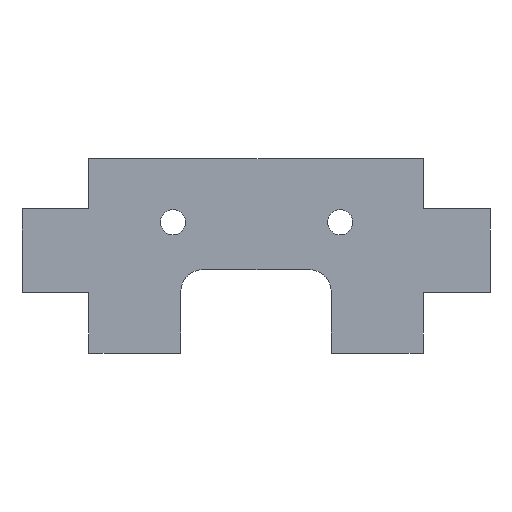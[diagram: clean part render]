
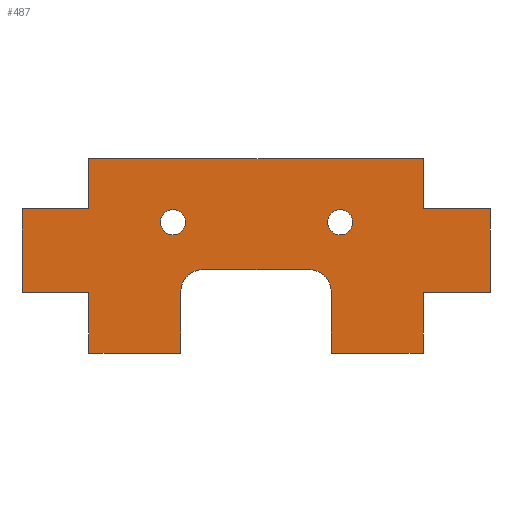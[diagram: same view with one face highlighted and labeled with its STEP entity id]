
A CAD part, front view. The second image highlights one B-rep face of the part: STEP entity #487.
In plain terms, the highlighted planar face has unit normal (0, -1, 0).
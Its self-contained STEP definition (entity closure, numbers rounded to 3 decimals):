
#19=FACE_BOUND('',#92,.T.);
#20=FACE_BOUND('',#93,.T.);
#39=PLANE('',#537);
#63=FACE_OUTER_BOUND('',#91,.T.);
#91=EDGE_LOOP('',(#419,#420,#421,#422,#423,#424,#425,#426,#427,#428,#429,
#430,#431,#432,#433,#434,#435,#436));
#92=EDGE_LOOP('',(#437));
#93=EDGE_LOOP('',(#438));
#103=LINE('',#699,#157);
#106=LINE('',#705,#160);
#110=LINE('',#717,#164);
#114=LINE('',#729,#168);
#117=LINE('',#735,#171);
#120=LINE('',#741,#174);
#123=LINE('',#747,#177);
#126=LINE('',#753,#180);
#129=LINE('',#759,#183);
#132=LINE('',#765,#186);
#135=LINE('',#771,#189);
#138=LINE('',#777,#192);
#141=LINE('',#783,#195);
#144=LINE('',#789,#198);
#147=LINE('',#795,#201);
#150=LINE('',#799,#204);
#157=VECTOR('',#573,10.);
#160=VECTOR('',#578,10.);
#164=VECTOR('',#590,10.);
#168=VECTOR('',#602,10.);
#171=VECTOR('',#607,10.);
#174=VECTOR('',#612,10.);
#177=VECTOR('',#617,10.);
#180=VECTOR('',#622,10.);
#183=VECTOR('',#627,10.);
#186=VECTOR('',#632,10.);
#189=VECTOR('',#637,10.);
#192=VECTOR('',#642,10.);
#195=VECTOR('',#647,10.);
#198=VECTOR('',#652,10.);
#201=VECTOR('',#657,10.);
#204=VECTOR('',#662,10.);
#209=CIRCLE('',#510,0.75);
#211=CIRCLE('',#513,0.75);
#214=CIRCLE('',#519,1.3);
#216=CIRCLE('',#523,1.3);
#221=VERTEX_POINT('',#681);
#223=VERTEX_POINT('',#687);
#227=VERTEX_POINT('',#696);
#228=VERTEX_POINT('',#698);
#230=VERTEX_POINT('',#704);
#232=VERTEX_POINT('',#710);
#234=VERTEX_POINT('',#716);
#236=VERTEX_POINT('',#722);
#238=VERTEX_POINT('',#728);
#240=VERTEX_POINT('',#734);
#242=VERTEX_POINT('',#740);
#244=VERTEX_POINT('',#746);
#246=VERTEX_POINT('',#752);
#248=VERTEX_POINT('',#758);
#250=VERTEX_POINT('',#764);
#252=VERTEX_POINT('',#770);
#254=VERTEX_POINT('',#776);
#256=VERTEX_POINT('',#782);
#258=VERTEX_POINT('',#788);
#260=VERTEX_POINT('',#794);
#267=EDGE_CURVE('',#221,#221,#209,.T.);
#270=EDGE_CURVE('',#223,#223,#211,.T.);
#275=EDGE_CURVE('',#228,#227,#103,.T.);
#278=EDGE_CURVE('',#230,#228,#106,.T.);
#281=EDGE_CURVE('',#232,#230,#214,.T.);
#284=EDGE_CURVE('',#234,#232,#110,.T.);
#287=EDGE_CURVE('',#236,#234,#216,.T.);
#290=EDGE_CURVE('',#238,#236,#114,.T.);
#293=EDGE_CURVE('',#240,#238,#117,.T.);
#296=EDGE_CURVE('',#242,#240,#120,.T.);
#299=EDGE_CURVE('',#244,#242,#123,.T.);
#302=EDGE_CURVE('',#246,#244,#126,.T.);
#305=EDGE_CURVE('',#248,#246,#129,.T.);
#308=EDGE_CURVE('',#250,#248,#132,.T.);
#311=EDGE_CURVE('',#252,#250,#135,.T.);
#314=EDGE_CURVE('',#254,#252,#138,.T.);
#317=EDGE_CURVE('',#256,#254,#141,.T.);
#320=EDGE_CURVE('',#258,#256,#144,.T.);
#323=EDGE_CURVE('',#260,#258,#147,.T.);
#326=EDGE_CURVE('',#227,#260,#150,.T.);
#419=ORIENTED_EDGE('',*,*,#326,.T.);
#420=ORIENTED_EDGE('',*,*,#323,.T.);
#421=ORIENTED_EDGE('',*,*,#320,.T.);
#422=ORIENTED_EDGE('',*,*,#317,.T.);
#423=ORIENTED_EDGE('',*,*,#314,.T.);
#424=ORIENTED_EDGE('',*,*,#311,.T.);
#425=ORIENTED_EDGE('',*,*,#308,.T.);
#426=ORIENTED_EDGE('',*,*,#305,.T.);
#427=ORIENTED_EDGE('',*,*,#302,.T.);
#428=ORIENTED_EDGE('',*,*,#299,.T.);
#429=ORIENTED_EDGE('',*,*,#296,.T.);
#430=ORIENTED_EDGE('',*,*,#293,.T.);
#431=ORIENTED_EDGE('',*,*,#290,.T.);
#432=ORIENTED_EDGE('',*,*,#287,.T.);
#433=ORIENTED_EDGE('',*,*,#284,.T.);
#434=ORIENTED_EDGE('',*,*,#281,.T.);
#435=ORIENTED_EDGE('',*,*,#278,.T.);
#436=ORIENTED_EDGE('',*,*,#275,.T.);
#437=ORIENTED_EDGE('',*,*,#270,.T.);
#438=ORIENTED_EDGE('',*,*,#267,.T.);
#487=ADVANCED_FACE('',(#63,#19,#20),#39,.T.);
#510=AXIS2_PLACEMENT_3D('',#682,#557,#558);
#513=AXIS2_PLACEMENT_3D('',#688,#564,#565);
#519=AXIS2_PLACEMENT_3D('',#711,#584,#585);
#523=AXIS2_PLACEMENT_3D('',#723,#596,#597);
#537=AXIS2_PLACEMENT_3D('',#800,#663,#664);
#557=DIRECTION('center_axis',(0.,1.,0.));
#558=DIRECTION('ref_axis',(1.,0.,0.));
#564=DIRECTION('center_axis',(0.,1.,0.));
#565=DIRECTION('ref_axis',(1.,0.,0.));
#573=DIRECTION('',(1.,0.,0.));
#578=DIRECTION('',(0.,0.,-1.));
#584=DIRECTION('center_axis',(0.,1.,0.));
#585=DIRECTION('ref_axis',(1.,0.,0.));
#590=DIRECTION('',(1.,0.,0.));
#596=DIRECTION('center_axis',(0.,1.,0.));
#597=DIRECTION('ref_axis',(0.,0.,1.));
#602=DIRECTION('',(0.,0.,1.));
#607=DIRECTION('',(1.,0.,0.));
#612=DIRECTION('',(0.,0.,-1.));
#617=DIRECTION('',(1.,0.,0.));
#622=DIRECTION('',(0.,0.,-1.));
#627=DIRECTION('',(-1.,0.,0.));
#632=DIRECTION('',(0.,0.,-1.));
#637=DIRECTION('',(-1.,0.,0.));
#642=DIRECTION('',(0.,0.,1.));
#647=DIRECTION('',(-1.,0.,0.));
#652=DIRECTION('',(0.,0.,1.));
#657=DIRECTION('',(1.,0.,0.));
#662=DIRECTION('',(0.,0.,1.));
#663=DIRECTION('center_axis',(0.,-1.,0.));
#664=DIRECTION('ref_axis',(1.,0.,0.));
#681=CARTESIAN_POINT('',(-11.631,-143.964,75.426));
#682=CARTESIAN_POINT('Origin',(-10.881,-143.964,75.426));
#687=CARTESIAN_POINT('',(-1.631,-143.964,75.426));
#688=CARTESIAN_POINT('Origin',(-0.881,-143.964,75.426));
#696=CARTESIAN_POINT('',(4.084,-143.964,67.585));
#698=CARTESIAN_POINT('',(-1.416,-143.964,67.585));
#699=CARTESIAN_POINT('',(4.084,-143.964,67.585));
#704=CARTESIAN_POINT('',(-1.416,-143.964,71.285));
#705=CARTESIAN_POINT('',(-1.416,-143.964,71.285));
#710=CARTESIAN_POINT('',(-2.716,-143.964,72.585));
#711=CARTESIAN_POINT('Origin',(-2.716,-143.964,71.285));
#716=CARTESIAN_POINT('',(-9.117,-143.964,72.585));
#717=CARTESIAN_POINT('',(-8.717,-143.964,72.585));
#722=CARTESIAN_POINT('',(-10.417,-143.964,71.285));
#723=CARTESIAN_POINT('Origin',(-9.117,-143.964,71.285));
#728=CARTESIAN_POINT('',(-10.417,-143.964,67.585));
#729=CARTESIAN_POINT('',(-10.417,-143.964,71.285));
#734=CARTESIAN_POINT('',(-15.917,-143.964,67.585));
#735=CARTESIAN_POINT('',(-15.917,-143.964,67.585));
#740=CARTESIAN_POINT('',(-15.917,-143.964,71.226));
#741=CARTESIAN_POINT('',(-15.917,-143.964,67.585));
#746=CARTESIAN_POINT('',(-19.917,-143.964,71.226));
#747=CARTESIAN_POINT('',(-19.917,-143.964,71.226));
#752=CARTESIAN_POINT('',(-19.917,-143.964,76.226));
#753=CARTESIAN_POINT('',(-19.917,-143.964,76.226));
#758=CARTESIAN_POINT('',(-15.917,-143.964,76.226));
#759=CARTESIAN_POINT('',(-19.917,-143.964,76.226));
#764=CARTESIAN_POINT('',(-15.917,-143.964,79.226));
#765=CARTESIAN_POINT('',(-15.917,-143.964,76.226));
#770=CARTESIAN_POINT('',(4.084,-143.964,79.226));
#771=CARTESIAN_POINT('',(-15.917,-143.964,79.226));
#776=CARTESIAN_POINT('',(4.084,-143.964,76.226));
#777=CARTESIAN_POINT('',(4.084,-143.964,79.226));
#782=CARTESIAN_POINT('',(8.084,-143.964,76.226));
#783=CARTESIAN_POINT('',(4.084,-143.964,76.226));
#788=CARTESIAN_POINT('',(8.084,-143.964,71.226));
#789=CARTESIAN_POINT('',(8.084,-143.964,71.226));
#794=CARTESIAN_POINT('',(4.084,-143.964,71.226));
#795=CARTESIAN_POINT('',(4.084,-143.964,71.226));
#799=CARTESIAN_POINT('',(4.084,-143.964,67.585));
#800=CARTESIAN_POINT('Origin',(-5.916,-143.964,73.405));
